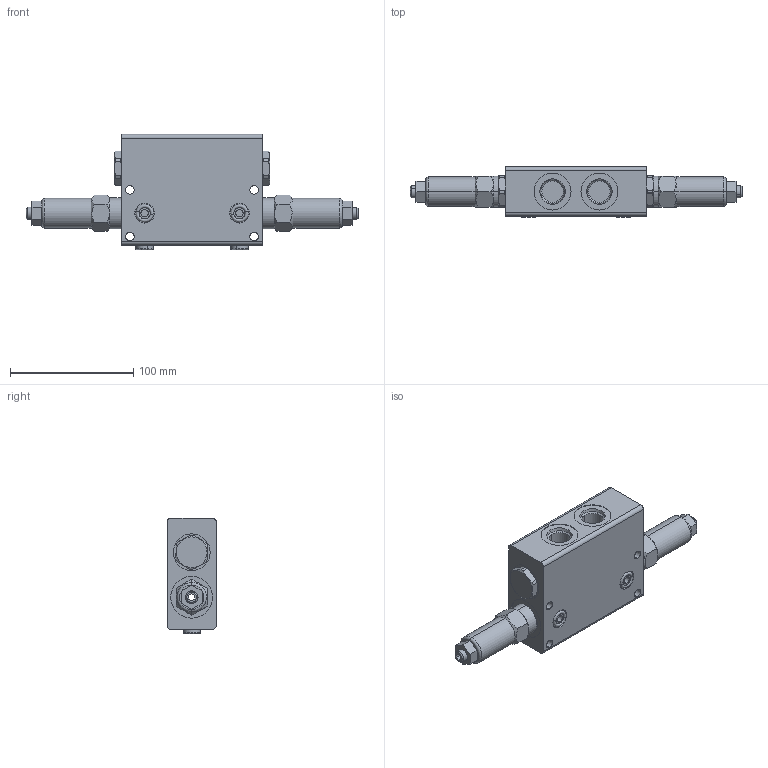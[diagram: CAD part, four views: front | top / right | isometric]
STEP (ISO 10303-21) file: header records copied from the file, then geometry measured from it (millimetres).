
FILE_DESCRIPTION (( 'STEP AP214' ), '1' );
FILE_NAME ('VCD34003.STEP', '2025-05-14T00:55:19', ( '' ), ( '' ), 'SwSTEP 2.0', 'SolidWorks 2023', '' );
FILE_SCHEMA (( 'AUTOMOTIVE_DESIGN' ));
Length unit declared in the file: millimetre
Products named in the file (1): VCD34003
Bounding box: 269.65 x 40.52 x 93.5 mm (x, y, z)
Surface area: 57753.9 mm2 (no closed solid volume)
Topology: 0 solids, 13 shells, 224 faces, 558 edges, 358 vertices
Faces by surface type: plane 88, cylinder 74, cone 38, torus 24
Entity records: 7226 total; most frequent: CARTESIAN_POINT 1841, DIRECTION 1186, ORIENTED_EDGE 1010, EDGE_CURVE 558, AXIS2_PLACEMENT_3D 471, VERTEX_POINT 358, EDGE_LOOP 262, CIRCLE 246
